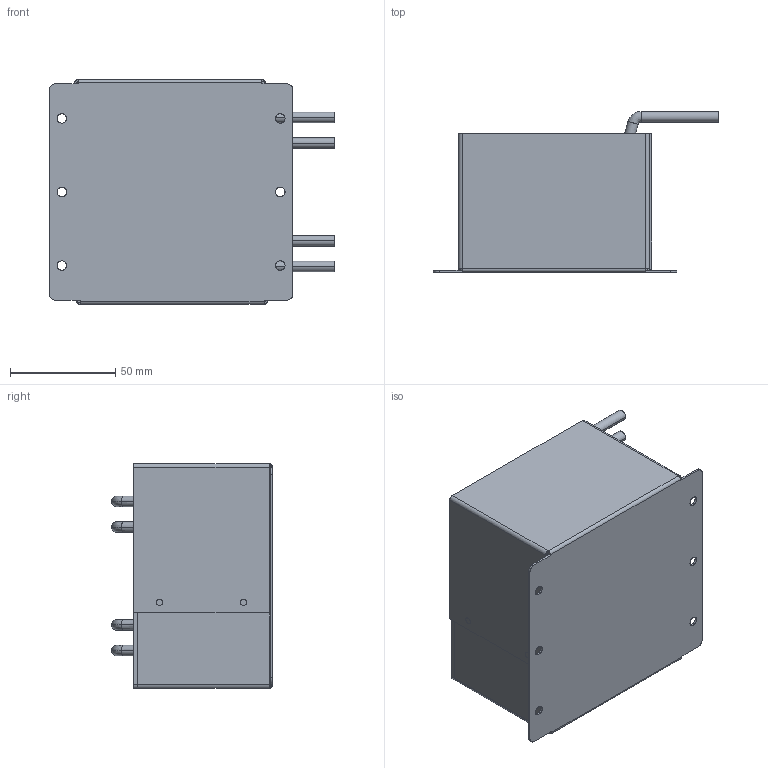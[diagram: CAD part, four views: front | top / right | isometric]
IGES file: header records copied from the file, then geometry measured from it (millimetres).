
Start section: SolidWorks IGES file using analytic representation for surfaces
Global section: file name: 25H\\10.106.230.1\r&d file\05_COMP\02_Mechanical\10_Others\PV_RT 81\网络用3D模型\灌封模型\S-4KW-G-CB-DCL\S-4KW_G_CB-DCL 总装.IGS; native system: SolidWorks 2009; preprocessor: SolidWorks 2009; author: 钱雅婧,,1; organization: 1; date: 120507.164307; units: millimetre
Bounding box: 135.9 x 76.5 x 107 mm (x, y, z)
Surface area: 124944.5 mm2 (no closed solid volume)
Topology: 0 solids, 0 shells, 128 faces, 976 edges, 976 vertices
Faces by surface type: bspline 72, revolution 56
